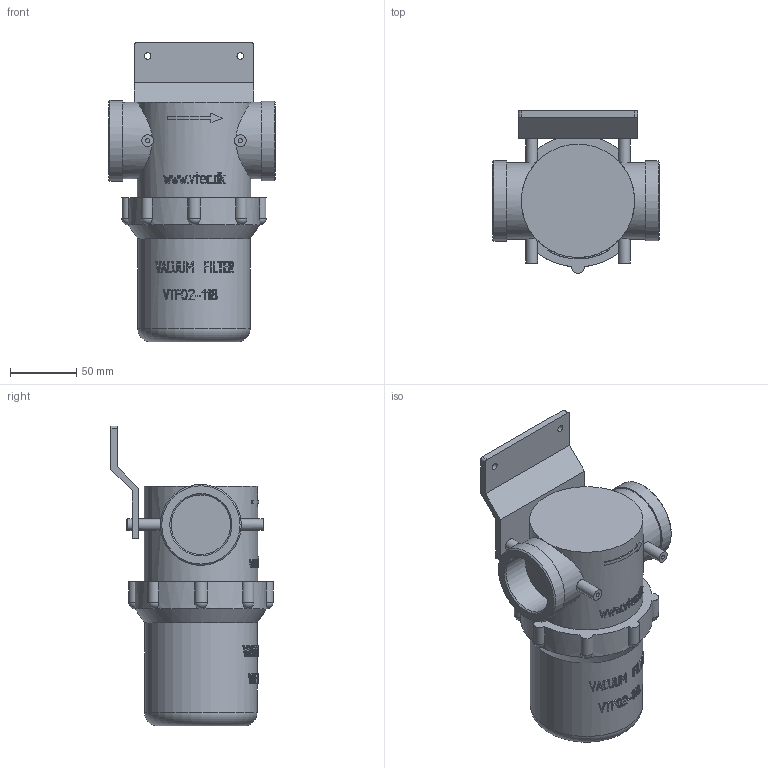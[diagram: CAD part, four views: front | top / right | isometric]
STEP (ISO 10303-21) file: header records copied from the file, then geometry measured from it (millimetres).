
FILE_DESCRIPTION( ( 'STEP AP214' ), '1' );
FILE_NAME( 'C:/撲啗紫賊-02/3D-Step File/Accessories/Vacuum Filter/VTF02-118.stp', '2006-04-24T05:49:53', ( ' ' ), ( ' ' ), 'XStep 1.0', ' ', ' ' );
FILE_SCHEMA( ( 'CONFIG_CONTROL_DESIGN) ( )' ) );
Length unit declared in the file: metre
Products named in the file (1): 1
Bounding box: 126 x 122.58 x 226.6 mm (x, y, z)
Volume: 1192274.2 mm3; surface area: 101737.6 mm2
Topology: 1 solids, 1 shells, 403 faces, 1042 edges, 685 vertices
Faces by surface type: plane 202, bspline 100, cylinder 84, sphere 8, cone 6, torus 3
Full cylindrical faces by diameter (mm): 3.2 x2, 5 x2, 8.8 x6, 45 x2, 57.8 x2, 60.4 x1, 61.2 x1, 85 x1, 85.7 x1
Entity records: 25146 total; most frequent: CARTESIAN_POINT 12824, ORIENTED_EDGE 1980, DIRECTION 1616, EDGE_CURVE 990, VERTEX_POINT 672, AXIS2_PLACEMENT_3D 576, EDGE_LOOP 492, LINE 464
